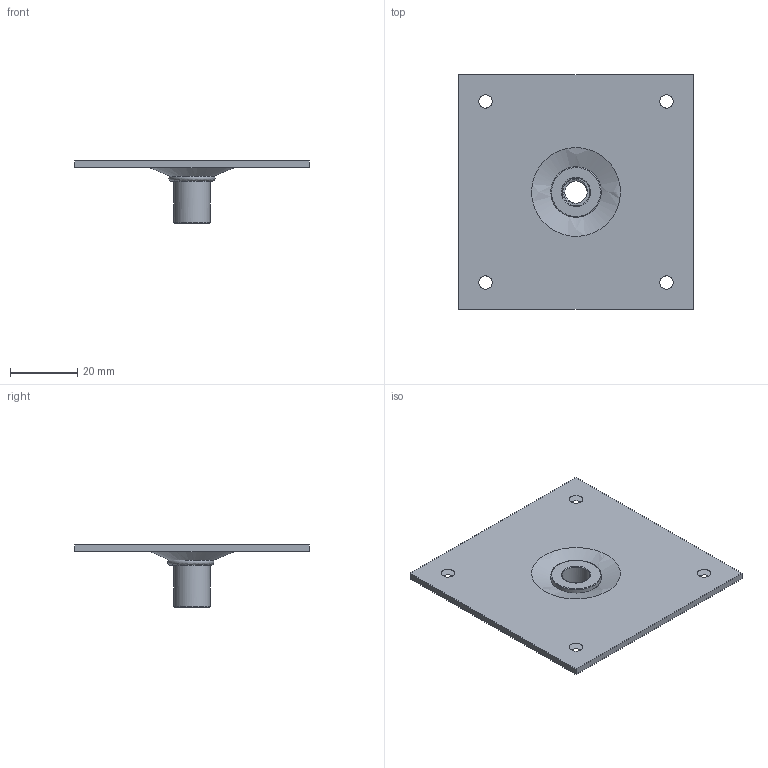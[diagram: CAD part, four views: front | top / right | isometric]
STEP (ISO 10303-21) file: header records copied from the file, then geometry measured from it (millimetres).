
FILE_DESCRIPTION(/* description */ (''),/* implementation_level */ '2;1');
FILE_NAME(/* name */ 'DZM2',/* time_stamp */ '2025-02-10T21:10:25+01:00',/* author */ (''),/* organization */ (''),/* preprocessor_version */ 'ST-DEVELOPER v16.5',/* originating_system */ '',/* authorisation */ '');
FILE_SCHEMA (('CONFIG_CONTROL_DESIGN'));
Length unit declared in the file: millimetre
Products named in the file (1): DZM2
Bounding box: 70 x 70 x 18.5 mm (x, y, z)
Volume: 1029 mm3; surface area: 12147 mm2
Topology: 2 solids, 3 shells, 48 faces, 121 edges, 79 vertices
Faces by surface type: cylinder 20, bspline 17, plane 11
Full cylindrical faces by diameter (mm): 8.302 x1, 10.8 x1, 15 x2
Entity records: 3430 total; most frequent: CARTESIAN_POINT 2583, ORIENTED_EDGE 232, EDGE_CURVE 121, VERTEX_POINT 79, EDGE_LOOP 62, ADVANCED_FACE 48, FACE_OUTER_BOUND 48, B_SPLINE_CURVE_WITH_KNOTS 46
